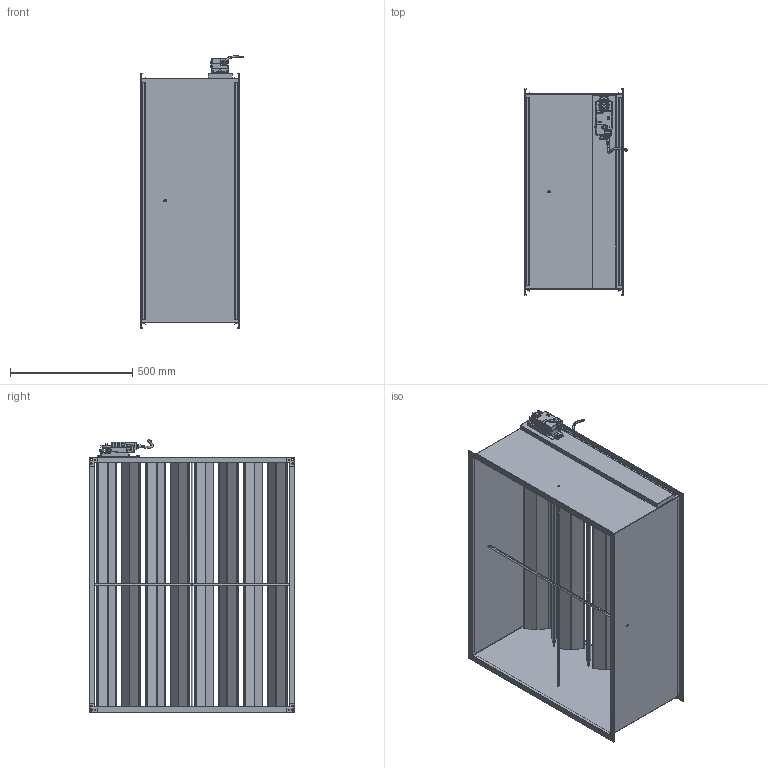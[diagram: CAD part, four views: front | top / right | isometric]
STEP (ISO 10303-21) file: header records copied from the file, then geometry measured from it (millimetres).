
FILE_DESCRIPTION (( 'STEP AP214' ), '1' );
FILE_NAME ('VAV-S1000800.STEP', '2025-05-08T12:36:00', ( '' ), ( '' ), 'SwSTEP 2.0', 'SolidWorks 2025', '' );
FILE_SCHEMA (( 'AUTOMOTIVE_DESIGN' ));
Length unit declared in the file: millimetre
Products named in the file (1): VAV-S1000800
Bounding box: 420.45 x 841 x 1113.68 mm (x, y, z)
Surface area: 6188546 mm2 (no closed solid volume)
Topology: 0 solids, 48 shells, 2154 faces, 5649 edges, 3602 vertices
Faces by surface type: plane 1563, cylinder 538, bspline 24, sphere 18, cone 10, torus 1
Full cylindrical faces by diameter (mm): 1 x4, 6 x17, 8 x1, 9 x6, 9.092 x2, 11 x1, 20 x1, 21 x2
Entity records: 94004 total; most frequent: CARTESIAN_POINT 41954, ORIENTED_EDGE 11089, DIRECTION 7280, EDGE_CURVE 5568, VERTEX_POINT 3577, B_SPLINE_CURVE_WITH_KNOTS 3170, AXIS2_PLACEMENT_3D 2763, EDGE_LOOP 2366
